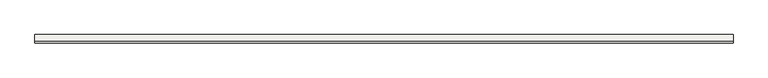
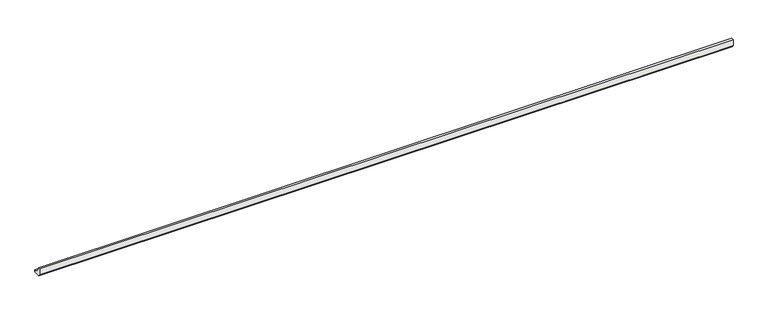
"""IFC4 building model written with IfcOpenShell, lengths in millimetres: slab geometry, ROSA GRES_188 : Pieza 188_Tresor_Java_Anti-Slip."""

from ifc_helpers import new_model, si_unit, point, frame, frame_2d, origin, place, context, project, spatial, polyline, circle_curve, trimmed, segment, composite_curve, outline, extrude, source, transform, mapped, element, save


def slab_75989376(model_context):
    return source(origin(), model_context, "Body", "SweptSolid", [
        extrude(outline(composite_curve([segment(polyline([(0.0, 8.7114978), (0.0, 40.0), (9.9734114, 40.0)]), True, "CONTINUOUS"), segment(trimmed(circle_curve(frame_2d((39.9955547, 39.9955547)), 30.0221435), [point((9.9734114, 40.0))], [point((40.0, 9.9734114))], True, "CARTESIAN"), True, "CONTINUOUS"), segment(polyline([(40.0, 9.9734114), (40.0, 0.0), (8.7114978, 0.0), (0.0, 8.7114978)]), True, "CONTINUOUS")], self_intersect=False)), frame((0.0, 0.0, 0.0), z_axis=(1.0, 0.0, 0.0), x_axis=(0.0, 1.0, 0.0)), (0.0, 0.0, 1.0), 3330.0),
    ])


if __name__ == "__main__":
    model = new_model("IFC4")
    model_context = context("Model", 3, world=origin())
    ifc_project = project(units=[si_unit("LENGTHUNIT", "METRE", prefix="MILLI")], contexts=[model_context])
    site = spatial("IfcSite", under=ifc_project)
    building = spatial("IfcBuilding", under=site)
    placement = place(None, origin())
    slab_shape = slab_75989376(model_context)
    element("IfcSlab", 1, ObjectType="ROSA GRES_188 : Pieza 188_Tresor_Java_Anti-Slip", at=placement, inside=building, context=model_context, shape_type="MappedRepresentation", body=[
        mapped(slab_shape, transform((0.0, 0.0, 0.0), x_axis=(1.0, 0.0, 0.0), y_axis=(0.0, 1.0, 0.0), z_axis=(0.0, 0.0, 1.0))),
    ])
    save(model, "model.ifc")
